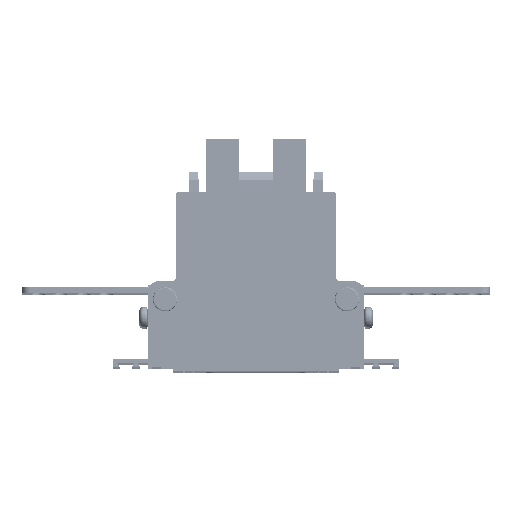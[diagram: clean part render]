
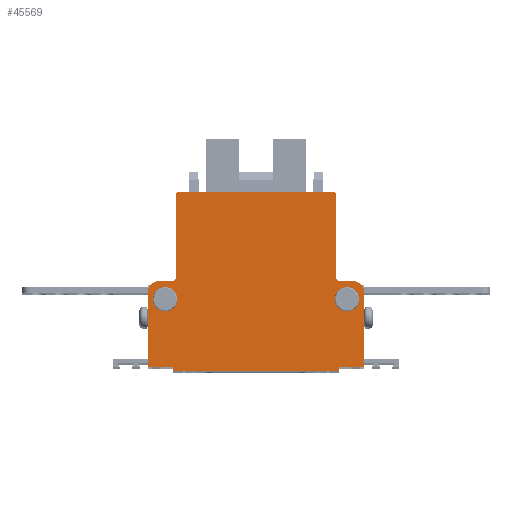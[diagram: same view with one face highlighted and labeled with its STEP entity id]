
A CAD part, top view. The second image highlights one B-rep face of the part: STEP entity #45569.
In plain terms, the highlighted planar face has unit normal (0, 0, 1).
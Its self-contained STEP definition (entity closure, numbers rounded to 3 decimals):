
#45569=ADVANCED_FACE('',(#61251,#61252,#61253),#50586,.F.);
#50586=PLANE('',#124851);
#53528=LINE('',#146915,#58117);
#53529=LINE('',#146918,#58118);
#53530=LINE('',#146920,#58119);
#53531=LINE('',#146922,#58120);
#53532=LINE('',#146926,#58121);
#53533=LINE('',#146930,#58122);
#53534=LINE('',#146934,#58123);
#53535=LINE('',#146938,#58124);
#53536=LINE('',#146942,#58125);
#53537=LINE('',#146946,#58126);
#53538=LINE('',#146948,#58127);
#53539=LINE('',#146950,#58128);
#58117=VECTOR('',#132250,1.);
#58118=VECTOR('',#132251,1.);
#58119=VECTOR('',#132252,1.);
#58120=VECTOR('',#132253,1.);
#58121=VECTOR('',#132256,1.);
#58122=VECTOR('',#132259,1.);
#58123=VECTOR('',#132262,1.);
#58124=VECTOR('',#132265,1.);
#58125=VECTOR('',#132268,1.);
#58126=VECTOR('',#132271,1.);
#58127=VECTOR('',#132272,1.);
#58128=VECTOR('',#132273,1.);
#61251=FACE_BOUND('',#63872,.T.);
#61252=FACE_BOUND('',#63873,.T.);
#61253=FACE_BOUND('',#63874,.T.);
#63872=EDGE_LOOP('',(#73699));
#63873=EDGE_LOOP('',(#73700,#73701,#73702,#73703,#73704,#73705,#73706,#73707,
#73708,#73709,#73710,#73711,#73712,#73713,#73714,#73715,#73716,#73717));
#63874=EDGE_LOOP('',(#73718));
#73699=ORIENTED_EDGE('',*,*,#109920,.T.);
#73700=ORIENTED_EDGE('',*,*,#109921,.T.);
#73701=ORIENTED_EDGE('',*,*,#109922,.T.);
#73702=ORIENTED_EDGE('',*,*,#109923,.F.);
#73703=ORIENTED_EDGE('',*,*,#109924,.T.);
#73704=ORIENTED_EDGE('',*,*,#109925,.T.);
#73705=ORIENTED_EDGE('',*,*,#109926,.T.);
#73706=ORIENTED_EDGE('',*,*,#109927,.T.);
#73707=ORIENTED_EDGE('',*,*,#109928,.T.);
#73708=ORIENTED_EDGE('',*,*,#109929,.T.);
#73709=ORIENTED_EDGE('',*,*,#109930,.T.);
#73710=ORIENTED_EDGE('',*,*,#109931,.F.);
#73711=ORIENTED_EDGE('',*,*,#109932,.F.);
#73712=ORIENTED_EDGE('',*,*,#109933,.F.);
#73713=ORIENTED_EDGE('',*,*,#109934,.F.);
#73714=ORIENTED_EDGE('',*,*,#109935,.F.);
#73715=ORIENTED_EDGE('',*,*,#109936,.F.);
#73716=ORIENTED_EDGE('',*,*,#109937,.T.);
#73717=ORIENTED_EDGE('',*,*,#109938,.F.);
#73718=ORIENTED_EDGE('',*,*,#109939,.F.);
#99457=VERTEX_POINT('',#146914);
#99458=VERTEX_POINT('',#146916);
#99459=VERTEX_POINT('',#146917);
#99460=VERTEX_POINT('',#146919);
#99461=VERTEX_POINT('',#146921);
#99462=VERTEX_POINT('',#146923);
#99463=VERTEX_POINT('',#146925);
#99464=VERTEX_POINT('',#146927);
#99465=VERTEX_POINT('',#146929);
#99466=VERTEX_POINT('',#146931);
#99467=VERTEX_POINT('',#146933);
#99468=VERTEX_POINT('',#146935);
#99469=VERTEX_POINT('',#146937);
#99470=VERTEX_POINT('',#146939);
#99471=VERTEX_POINT('',#146941);
#99472=VERTEX_POINT('',#146943);
#99473=VERTEX_POINT('',#146945);
#99474=VERTEX_POINT('',#146947);
#99475=VERTEX_POINT('',#146949);
#99476=VERTEX_POINT('',#146952);
#109920=EDGE_CURVE('',#99457,#99457,#122455,.T.);
#109921=EDGE_CURVE('',#99458,#99459,#53528,.T.);
#109922=EDGE_CURVE('',#99459,#99460,#53529,.T.);
#109923=EDGE_CURVE('',#99461,#99460,#53530,.T.);
#109924=EDGE_CURVE('',#99461,#99462,#53531,.T.);
#109925=EDGE_CURVE('',#99462,#99463,#122456,.T.);
#109926=EDGE_CURVE('',#99463,#99464,#53532,.T.);
#109927=EDGE_CURVE('',#99464,#99465,#122457,.T.);
#109928=EDGE_CURVE('',#99465,#99466,#53533,.T.);
#109929=EDGE_CURVE('',#99466,#99467,#122458,.T.);
#109930=EDGE_CURVE('',#99467,#99468,#53534,.T.);
#109931=EDGE_CURVE('',#99469,#99468,#122459,.T.);
#109932=EDGE_CURVE('',#99470,#99469,#53535,.T.);
#109933=EDGE_CURVE('',#99471,#99470,#122460,.T.);
#109934=EDGE_CURVE('',#99472,#99471,#53536,.T.);
#109935=EDGE_CURVE('',#99473,#99472,#122461,.T.);
#109936=EDGE_CURVE('',#99474,#99473,#53537,.T.);
#109937=EDGE_CURVE('',#99474,#99475,#53538,.T.);
#109938=EDGE_CURVE('',#99458,#99475,#53539,.T.);
#109939=EDGE_CURVE('',#99476,#99476,#122462,.T.);
#122455=CIRCLE('',#124843,2.653);
#122456=CIRCLE('',#124844,3.);
#122457=CIRCLE('',#124845,1.);
#122458=CIRCLE('',#124846,0.3);
#122459=CIRCLE('',#124847,0.3);
#122460=CIRCLE('',#124848,1.);
#122461=CIRCLE('',#124849,3.);
#122462=CIRCLE('',#124850,2.653);
#124843=AXIS2_PLACEMENT_3D('',#146913,#132248,#132249);
#124844=AXIS2_PLACEMENT_3D('',#146924,#132254,#132255);
#124845=AXIS2_PLACEMENT_3D('',#146928,#132257,#132258);
#124846=AXIS2_PLACEMENT_3D('',#146932,#132260,#132261);
#124847=AXIS2_PLACEMENT_3D('',#146936,#132263,#132264);
#124848=AXIS2_PLACEMENT_3D('',#146940,#132266,#132267);
#124849=AXIS2_PLACEMENT_3D('',#146944,#132269,#132270);
#124850=AXIS2_PLACEMENT_3D('',#146951,#132274,#132275);
#124851=AXIS2_PLACEMENT_3D('',#146953,#132276,#132277);
#132248=DIRECTION('',(0.,0.,-1.));
#132249=DIRECTION('',(-1.,0.,0.));
#132250=DIRECTION('',(1.,0.,0.));
#132251=DIRECTION('',(0.,1.,0.));
#132252=DIRECTION('',(-1.,0.,0.));
#132253=DIRECTION('',(0.,1.,0.));
#132254=DIRECTION('',(0.,0.,1.));
#132255=DIRECTION('',(-1.,0.,0.));
#132256=DIRECTION('',(-1.,0.,0.));
#132257=DIRECTION('',(0.,0.,-1.));
#132258=DIRECTION('',(-1.,0.,0.));
#132259=DIRECTION('',(0.,1.,0.));
#132260=DIRECTION('',(0.,0.,1.));
#132261=DIRECTION('',(-1.,0.,0.));
#132262=DIRECTION('',(-1.,0.,0.));
#132263=DIRECTION('',(0.,0.,-1.));
#132264=DIRECTION('',(1.,0.,0.));
#132265=DIRECTION('',(0.,1.,0.));
#132266=DIRECTION('',(0.,0.,1.));
#132267=DIRECTION('',(1.,0.,0.));
#132268=DIRECTION('',(1.,0.,0.));
#132269=DIRECTION('',(0.,0.,-1.));
#132270=DIRECTION('',(1.,0.,0.));
#132271=DIRECTION('',(0.,1.,0.));
#132272=DIRECTION('',(1.,0.,0.));
#132273=DIRECTION('',(0.,1.,0.));
#132274=DIRECTION('',(0.,0.,1.));
#132275=DIRECTION('',(-1.,0.,0.));
#132276=DIRECTION('',(0.,0.,-1.));
#132277=DIRECTION('',(-1.,0.,0.));
#146913=CARTESIAN_POINT('',(1097.42,-487.932,406.));
#146914=CARTESIAN_POINT('',(1094.768,-487.932,406.));
#146915=CARTESIAN_POINT('',(1139.27,-505.432,406.));
#146916=CARTESIAN_POINT('',(1099.37,-505.432,406.));
#146917=CARTESIAN_POINT('',(1139.67,-505.432,406.));
#146918=CARTESIAN_POINT('',(1139.67,-498.52,406.));
#146919=CARTESIAN_POINT('',(1139.67,-504.432,406.));
#146920=CARTESIAN_POINT('',(1137.77,-504.432,406.));
#146921=CARTESIAN_POINT('',(1145.87,-504.432,406.));
#146922=CARTESIAN_POINT('',(1145.87,-502.632,406.));
#146923=CARTESIAN_POINT('',(1145.87,-486.432,406.));
#146924=CARTESIAN_POINT('',(1142.87,-486.432,406.));
#146925=CARTESIAN_POINT('',(1142.87,-483.432,406.));
#146926=CARTESIAN_POINT('',(1099.27,-483.432,406.));
#146927=CARTESIAN_POINT('',(1139.87,-483.432,406.));
#146928=CARTESIAN_POINT('',(1139.87,-482.432,406.));
#146929=CARTESIAN_POINT('',(1138.87,-482.432,406.));
#146930=CARTESIAN_POINT('',(1138.87,-498.52,406.));
#146931=CARTESIAN_POINT('',(1138.87,-462.232,406.));
#146932=CARTESIAN_POINT('',(1138.57,-462.232,406.));
#146933=CARTESIAN_POINT('',(1138.57,-461.932,406.));
#146934=CARTESIAN_POINT('',(1139.27,-461.932,406.));
#146935=CARTESIAN_POINT('',(1100.47,-461.932,406.));
#146936=CARTESIAN_POINT('',(1100.47,-462.232,406.));
#146937=CARTESIAN_POINT('',(1100.17,-462.232,406.));
#146938=CARTESIAN_POINT('',(1100.17,-498.52,406.));
#146939=CARTESIAN_POINT('',(1100.17,-482.432,406.));
#146940=CARTESIAN_POINT('',(1099.17,-482.432,406.));
#146941=CARTESIAN_POINT('',(1099.17,-483.432,406.));
#146942=CARTESIAN_POINT('',(1139.77,-483.432,406.));
#146943=CARTESIAN_POINT('',(1096.17,-483.432,406.));
#146944=CARTESIAN_POINT('',(1096.17,-486.432,406.));
#146945=CARTESIAN_POINT('',(1093.17,-486.432,406.));
#146946=CARTESIAN_POINT('',(1093.17,-502.632,406.));
#146947=CARTESIAN_POINT('',(1093.17,-504.432,406.));
#146948=CARTESIAN_POINT('',(1101.27,-504.432,406.));
#146949=CARTESIAN_POINT('',(1099.37,-504.432,406.));
#146950=CARTESIAN_POINT('',(1099.37,-498.52,406.));
#146951=CARTESIAN_POINT('',(1141.62,-487.932,406.));
#146952=CARTESIAN_POINT('',(1138.968,-487.932,406.));
#146953=CARTESIAN_POINT('',(1139.27,-498.52,406.));
